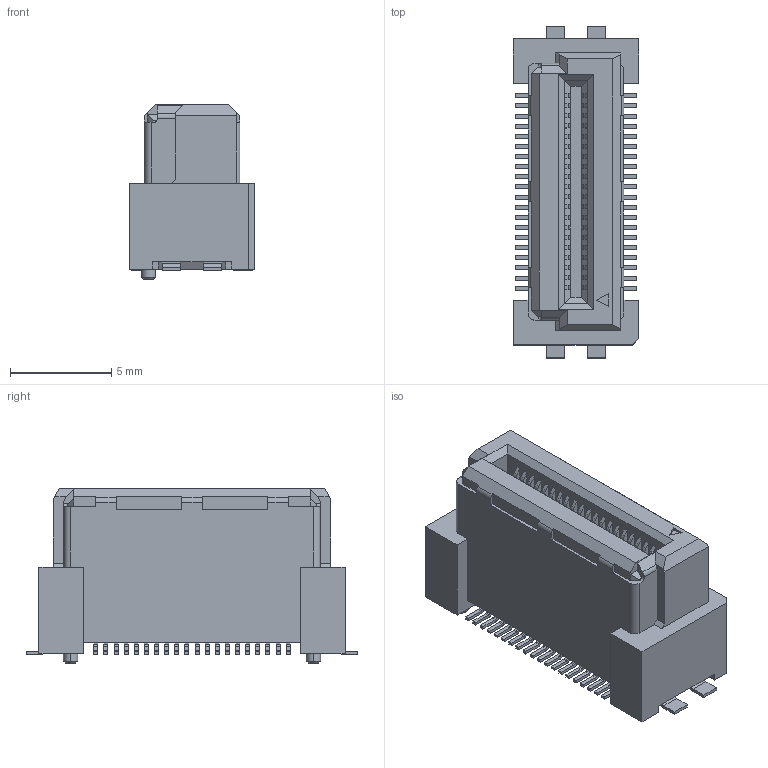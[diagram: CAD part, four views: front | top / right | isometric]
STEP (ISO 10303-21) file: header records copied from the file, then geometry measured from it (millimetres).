
FILE_DESCRIPTION(('Creo Elements/Direct Modeling STEP Export'),'2;1');
FILE_NAME('P3D582_DT11S-040S-10-T.stp','2025-05-01T11:42:16',(''),(''),'Creo Elements/Direct Modeling STEP processor for AP203 (Solid Model)','Creo Elements/Direct Modeling 20.6 25-Mar-2023 (C) Parametric Technology GmbH','');
FILE_SCHEMA(('CONFIG_CONTROL_DESIGN'));
Length unit declared in the file: millimetre
Products named in the file (2): P3D582_DT11S-040S-10-T
Assembly tree (1 placements, depth 2):
  P3D582_DT11S-040S-10-T
    P3D582_DT11S-040S-10-T
Bounding box: 6.2 x 16.4 x 8.63 mm (x, y, z)
Volume: 498.1 mm3; surface area: 628.6 mm2
Topology: 1 solids, 1 shells, 884 faces, 2368 edges, 1574 vertices
Faces by surface type: plane 654, cylinder 226, cone 4
Entity records: 27594 total; most frequent: CARTESIAN_POINT 4816, ORIENTED_EDGE 4736, DIRECTION 4577, EDGE_CURVE 2368, VECTOR 1907, LINE 1907, VERTEX_POINT 1574, AXIS2_PLACEMENT_3D 1335
